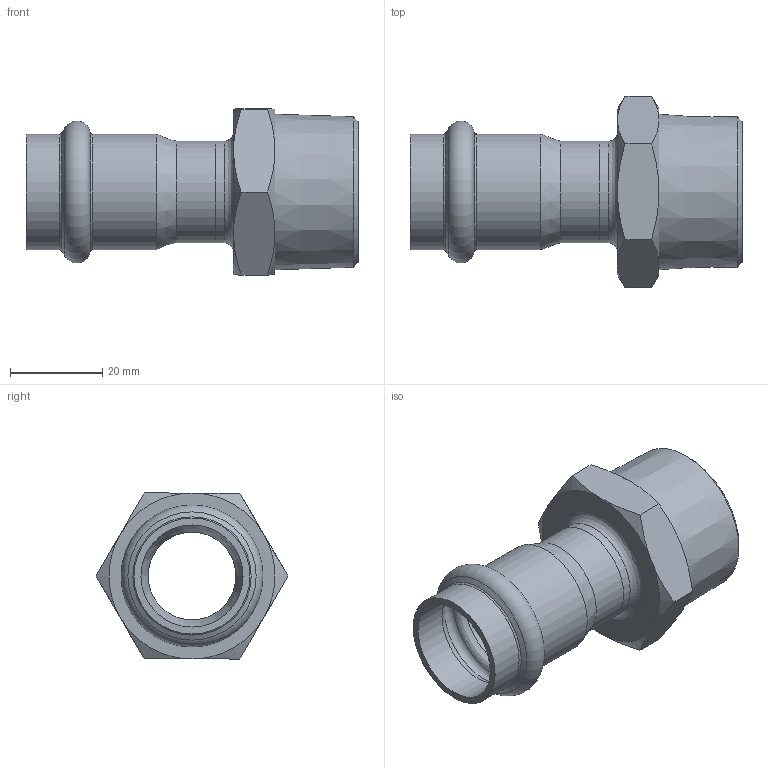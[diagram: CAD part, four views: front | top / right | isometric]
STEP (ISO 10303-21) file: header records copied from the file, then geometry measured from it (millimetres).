
FILE_DESCRIPTION((''),'2;1');
FILE_NAME('G:\Nirosan-Schmiedefeld\Technics\CAD\001 Serie 9.000\022\69243G221H(2).stp','2018-08-28T08:55:09',('herberg'),(''),'Autodesk Inventor 2009','Autodesk Inventor 2009','');
FILE_SCHEMA(('AUTOMOTIVE_DESIGN { 1 0 10303 214 1 1 1 1 }'));
Products named in the file (3): 69243G221H(2); 69HM22P(1); AG221(0)
Assembly tree (2 placements, depth 2):
  69243G221H(2)
    69HM22P(1)
    AG221(0)
Bounding box: 72 x 41.57 x 36 mm (x, y, z)
Volume: 17313.2 mm3; surface area: 13605 mm2
Topology: 2 solids, 2 shells, 47 faces, 97 edges, 56 vertices
Faces by surface type: cone 18, plane 12, bspline 8, cylinder 7, torus 2
Full cylindrical faces by diameter (mm): 19 x1, 22 x2, 22.15 x2, 25.15 x2
Entity records: 1377 total; most frequent: CARTESIAN_POINT 493, DIRECTION 174, ORIENTED_EDGE 140, AXIS2_PLACEMENT_3D 84, EDGE_LOOP 76, EDGE_CURVE 70, VERTEX_POINT 52, FACE_OUTER_BOUND 47
